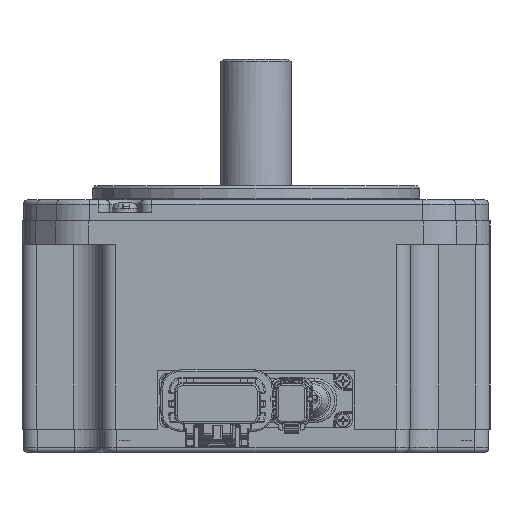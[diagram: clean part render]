
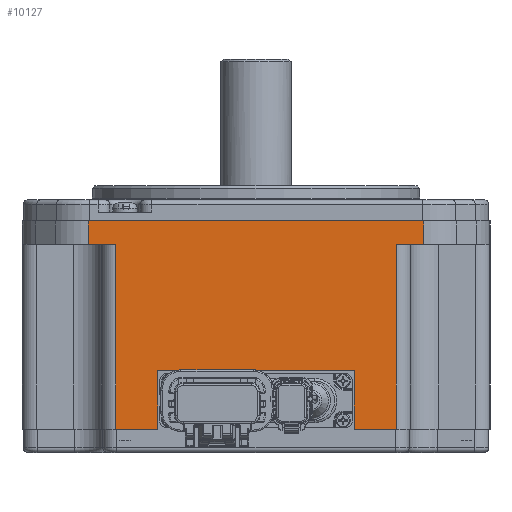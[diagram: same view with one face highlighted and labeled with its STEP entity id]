
A CAD part, front view. The second image highlights one B-rep face of the part: STEP entity #10127.
In plain terms, the highlighted planar face has unit normal (0, -1, 0).
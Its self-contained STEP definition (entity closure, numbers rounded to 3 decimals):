
#3495=FACE_OUTER_BOUND('',#13512,.T.);
#5259=LINE('',#54876,#7067);
#5267=LINE('',#54918,#7075);
#5268=LINE('',#54921,#7076);
#5269=LINE('',#54922,#7077);
#5270=LINE('',#54924,#7078);
#5271=LINE('',#54926,#7079);
#5272=LINE('',#54928,#7080);
#5273=LINE('',#54930,#7081);
#5274=LINE('',#54932,#7082);
#5275=LINE('',#54934,#7083);
#5276=LINE('',#54936,#7084);
#5277=LINE('',#54938,#7085);
#7067=VECTOR('',#41342,1.);
#7075=VECTOR('',#41380,1.);
#7076=VECTOR('',#41381,1.);
#7077=VECTOR('',#41382,1.);
#7078=VECTOR('',#41383,1.);
#7079=VECTOR('',#41384,1.);
#7080=VECTOR('',#41385,1.);
#7081=VECTOR('',#41386,1.);
#7082=VECTOR('',#41387,1.);
#7083=VECTOR('',#41388,1.);
#7084=VECTOR('',#41389,1.);
#7085=VECTOR('',#41390,1.);
#8422=PLANE('',#33122);
#10127=ADVANCED_FACE('',(#3495),#8422,.F.);
#13512=EDGE_LOOP('',(#21297,#21298,#21299,#21300,#21301,#21302,#21303,#21304,
#21305,#21306,#21307,#21308));
#21297=ORIENTED_EDGE('',*,*,#28076,.F.);
#21298=ORIENTED_EDGE('',*,*,#28077,.T.);
#21299=ORIENTED_EDGE('',*,*,#28057,.T.);
#21300=ORIENTED_EDGE('',*,*,#28078,.T.);
#21301=ORIENTED_EDGE('',*,*,#28079,.F.);
#21302=ORIENTED_EDGE('',*,*,#28080,.T.);
#21303=ORIENTED_EDGE('',*,*,#28081,.F.);
#21304=ORIENTED_EDGE('',*,*,#28082,.F.);
#21305=ORIENTED_EDGE('',*,*,#28083,.F.);
#21306=ORIENTED_EDGE('',*,*,#28084,.F.);
#21307=ORIENTED_EDGE('',*,*,#28085,.F.);
#21308=ORIENTED_EDGE('',*,*,#28086,.T.);
#24083=VERTEX_POINT('',#54877);
#24084=VERTEX_POINT('',#54878);
#24102=VERTEX_POINT('',#54919);
#24103=VERTEX_POINT('',#54920);
#24104=VERTEX_POINT('',#54923);
#24105=VERTEX_POINT('',#54925);
#24106=VERTEX_POINT('',#54927);
#24107=VERTEX_POINT('',#54929);
#24108=VERTEX_POINT('',#54931);
#24109=VERTEX_POINT('',#54933);
#24110=VERTEX_POINT('',#54935);
#24111=VERTEX_POINT('',#54937);
#28057=EDGE_CURVE('',#24083,#24084,#5259,.T.);
#28076=EDGE_CURVE('',#24102,#24103,#5267,.T.);
#28077=EDGE_CURVE('',#24102,#24083,#5268,.T.);
#28078=EDGE_CURVE('',#24084,#24104,#5269,.T.);
#28079=EDGE_CURVE('',#24105,#24104,#5270,.T.);
#28080=EDGE_CURVE('',#24105,#24106,#5271,.T.);
#28081=EDGE_CURVE('',#24107,#24106,#5272,.T.);
#28082=EDGE_CURVE('',#24108,#24107,#5273,.T.);
#28083=EDGE_CURVE('',#24109,#24108,#5274,.T.);
#28084=EDGE_CURVE('',#24110,#24109,#5275,.T.);
#28085=EDGE_CURVE('',#24111,#24110,#5276,.T.);
#28086=EDGE_CURVE('',#24111,#24103,#5277,.T.);
#33122=AXIS2_PLACEMENT_3D('',#54939,#41391,#41392);
#41342=DIRECTION('',(-1.,0.,0.));
#41380=DIRECTION('',(-1.,0.,0.));
#41381=DIRECTION('',(0.,0.,1.));
#41382=DIRECTION('',(0.,0.,-1.));
#41383=DIRECTION('',(-1.,0.,0.));
#41384=DIRECTION('',(0.,0.,-1.));
#41385=DIRECTION('',(-1.,0.,0.));
#41386=DIRECTION('',(0.,0.,-1.));
#41387=DIRECTION('',(-1.,0.,0.));
#41388=DIRECTION('',(0.,0.,1.));
#41389=DIRECTION('',(-1.,0.,0.));
#41390=DIRECTION('',(0.,0.,1.));
#41391=DIRECTION('',(0.,1.,0.));
#41392=DIRECTION('',(1.,0.,0.));
#54876=CARTESIAN_POINT('',(89.131,-40.828,66.6));
#54877=CARTESIAN_POINT('',(74.989,-40.828,66.6));
#54878=CARTESIAN_POINT('',(3.274,-40.828,66.6));
#54918=CARTESIAN_POINT('',(89.131,-40.828,61.6));
#54919=CARTESIAN_POINT('',(74.989,-40.828,61.6));
#54920=CARTESIAN_POINT('',(69.131,-40.828,61.6));
#54921=CARTESIAN_POINT('',(74.989,-40.828,66.6));
#54922=CARTESIAN_POINT('',(3.274,-40.828,61.6));
#54923=CARTESIAN_POINT('',(3.274,-40.828,61.6));
#54924=CARTESIAN_POINT('',(89.131,-40.828,61.6));
#54925=CARTESIAN_POINT('',(9.131,-40.828,61.6));
#54926=CARTESIAN_POINT('',(9.131,-40.828,22.1));
#54927=CARTESIAN_POINT('',(9.131,-40.828,22.1));
#54928=CARTESIAN_POINT('',(89.131,-40.828,22.1));
#54929=CARTESIAN_POINT('',(18.131,-40.828,22.1));
#54930=CARTESIAN_POINT('',(18.131,-40.828,34.6));
#54931=CARTESIAN_POINT('',(18.131,-40.828,34.6));
#54932=CARTESIAN_POINT('',(60.131,-40.828,34.6));
#54933=CARTESIAN_POINT('',(60.131,-40.828,34.6));
#54934=CARTESIAN_POINT('',(60.131,-40.828,22.1));
#54935=CARTESIAN_POINT('',(60.131,-40.828,22.1));
#54936=CARTESIAN_POINT('',(89.131,-40.828,22.1));
#54937=CARTESIAN_POINT('',(69.131,-40.828,22.1));
#54938=CARTESIAN_POINT('',(69.131,-40.828,22.1));
#54939=CARTESIAN_POINT('',(89.131,-40.828,22.1));
